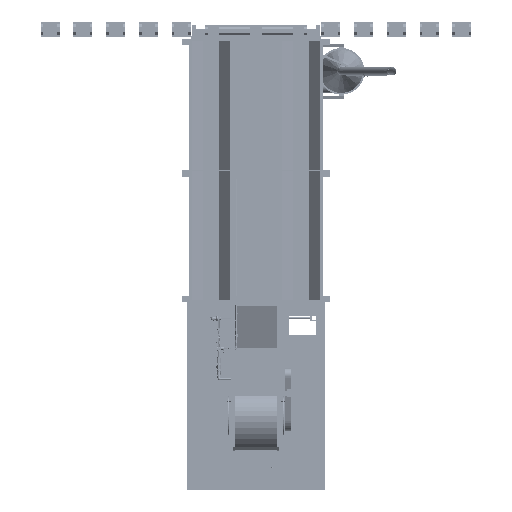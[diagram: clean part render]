
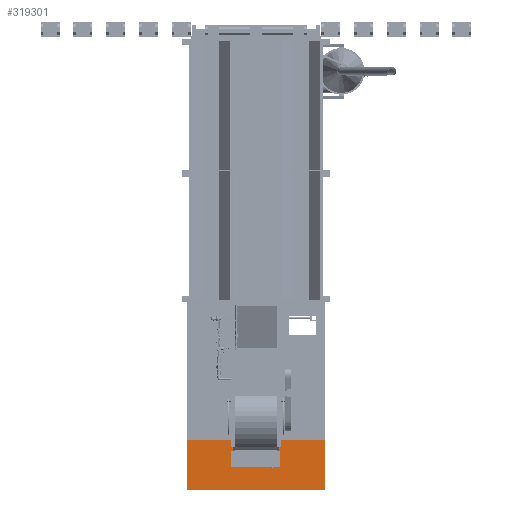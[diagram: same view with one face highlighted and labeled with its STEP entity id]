
A CAD part, front view. The second image highlights one B-rep face of the part: STEP entity #319301.
In plain terms, the highlighted planar face has unit normal (0, -1, 0) as drawn and (1, 0, 0) by its records, which use the part's own axes.
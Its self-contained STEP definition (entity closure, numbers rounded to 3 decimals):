
#60467=FACE_OUTER_BOUND('',#79509,.T.);
#79509=EDGE_LOOP('',(#282628,#282629,#282630,#282631));
#101674=LINE('',#754345,#126929);
#101710=LINE('',#754413,#126965);
#101722=LINE('',#754436,#126977);
#101723=LINE('',#754437,#126978);
#126929=VECTOR('',#418698,0.394);
#126965=VECTOR('',#418752,0.394);
#126977=VECTOR('',#418776,0.394);
#126978=VECTOR('',#418777,0.394);
#157033=VERTEX_POINT('',#754342);
#157034=VERTEX_POINT('',#754344);
#157057=VERTEX_POINT('',#754411);
#157062=VERTEX_POINT('',#754435);
#199671=EDGE_CURVE('',#157033,#157034,#101674,.T.);
#199707=EDGE_CURVE('',#157033,#157057,#101710,.T.);
#199719=EDGE_CURVE('',#157057,#157062,#101722,.T.);
#199720=EDGE_CURVE('',#157062,#157034,#101723,.T.);
#282628=ORIENTED_EDGE('',*,*,#199707,.T.);
#282629=ORIENTED_EDGE('',*,*,#199719,.T.);
#282630=ORIENTED_EDGE('',*,*,#199720,.T.);
#282631=ORIENTED_EDGE('',*,*,#199671,.F.);
#302443=PLANE('',#347606);
#319301=ADVANCED_FACE('',(#60467),#302443,.T.);
#347606=AXIS2_PLACEMENT_3D('',#754434,#418774,#418775);
#418698=DIRECTION('',(0.,0.,1.));
#418752=DIRECTION('',(0.,1.,0.));
#418774=DIRECTION('center_axis',(1.,0.,0.));
#418775=DIRECTION('ref_axis',(0.,0.,-1.));
#418776=DIRECTION('',(0.,0.,1.));
#418777=DIRECTION('',(0.,-1.,0.));
#754342=CARTESIAN_POINT('',(-0.125,-30.,101.063));
#754344=CARTESIAN_POINT('',(-0.125,-30.,137.75));
#754345=CARTESIAN_POINT('',(-0.125,-30.,0.));
#754411=CARTESIAN_POINT('',(-0.125,70.5,101.063));
#754413=CARTESIAN_POINT('',(-0.125,20.25,101.063));
#754434=CARTESIAN_POINT('Origin',(-0.125,70.5,0.));
#754435=CARTESIAN_POINT('',(-0.125,70.5,137.75));
#754436=CARTESIAN_POINT('',(-0.125,70.5,0.));
#754437=CARTESIAN_POINT('',(-0.125,-30.,137.75));
